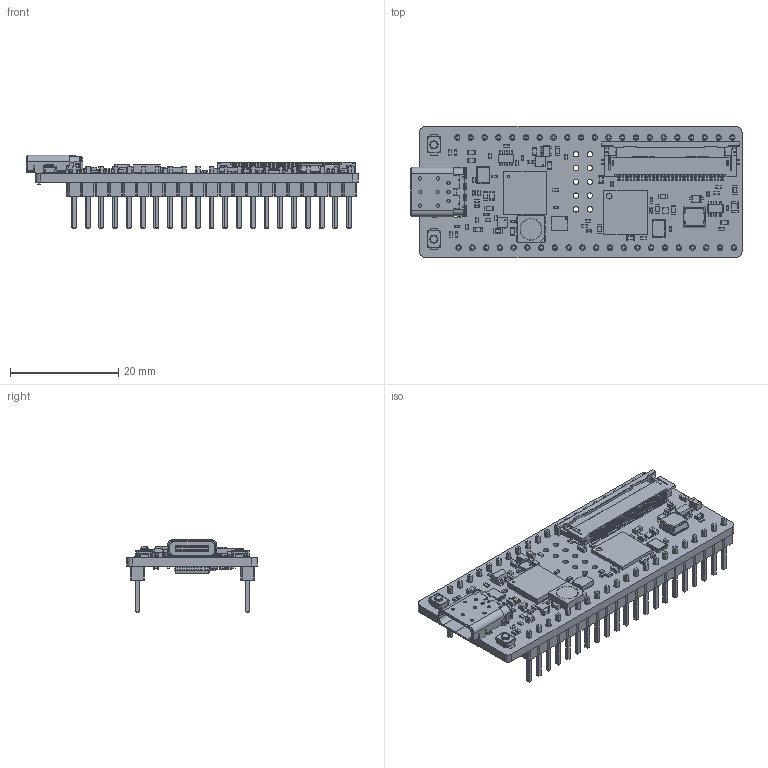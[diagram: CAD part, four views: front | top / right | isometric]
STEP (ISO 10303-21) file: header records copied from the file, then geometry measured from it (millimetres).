
FILE_DESCRIPTION(('KiCad electronic assembly'),'2;1');
FILE_NAME('ten_nano.step','2020-08-17T05:11:19',('An Author'),( 'A Company'),'Open CASCADE STEP processor 6.9', 'KiCad to STEP converter','Unknown');
FILE_SCHEMA(('AUTOMOTIVE_DESIGN { 1 0 10303 214 1 1 1 1 }'));
Length unit declared in the file: millimetre
Products named in the file (52): Open CASCADE STEP translator 6.9 1; 10M02SCM153C8G; COMPOUND; QFN-56-1EP_8x8mm_P0.5mm_EP4.6x5.3mm; SOLID; R_0603_1608Metric; LED_0603_1608Metric; L_0603_1608Metric; 54132-4062; C_0402_1005Metric; R_0402_1005Metric; LED_RGB_5050-6; SOT-23-6; C_0603_1608Metric; SSOP-20_4.4x6.5mm_P0.65mm; Crystal_SMD_3225-4Pin_3.2x2.5mm; L_Bourns-SRN4018; C_0805_2012Metric; PinHeader_1x21_P2.54mm_Vertical; 74LVC4066BQ,115; SOT-353_SC-70-5; AMS_QFN-4-1EP_2x2mm_P0.95mm; SW_SPST_B3U-1000P-B; 12401598E4#2A--3DModel-STEP-56544; Crystal_SMD_TXC_7M-4Pin_3.2x2.5mm; D_SOD-323F; DFN-6-1EP_1.2x1.2mm_P0.4mm_EP0.3x0.94mm_PullBack
Assembly tree (133 placements, depth 3):
  Open CASCADE STEP translator 6.9 1
    10M02SCM153C8G
      COMPOUND
    QFN-56-1EP_8x8mm_P0.5mm_EP4.6x5.3mm
      SOLID
    R_0603_1608Metric  x3
      SOLID
    LED_0603_1608Metric
      SOLID
    L_0603_1608Metric  x10
      SOLID
    54132-4062
      SOLID
      SOLID
      COMPOUND
    C_0402_1005Metric  x36
      SOLID
    R_0402_1005Metric  x24
      SOLID
    LED_RGB_5050-6
      SOLID
    SOT-23-6  x2
      SOLID
    C_0603_1608Metric  x9
      SOLID
    SSOP-20_4.4x6.5mm_P0.65mm
      SOLID
    Crystal_SMD_3225-4Pin_3.2x2.5mm
      SOLID
    L_Bourns-SRN4018
      COMPOUND
    C_0805_2012Metric
      SOLID
    PinHeader_1x21_P2.54mm_Vertical  x2
      SOLID
    74LVC4066BQ,115
      COMPOUND
    SOT-353_SC-70-5
      SOLID
    AMS_QFN-4-1EP_2x2mm_P0.95mm  x2
      SOLID
    SW_SPST_B3U-1000P-B  x2
      SOLID
    12401598E4#2A--3DModel-STEP-56544
      COMPOUND
    Crystal_SMD_TXC_7M-4Pin_3.2x2.5mm
      SOLID
    D_SOD-323F
      SOLID
    DFN-6-1EP_1.2x1.2mm_P0.4mm_EP0.3x0.94mm_PullBack  x2
      SOLID
    COMPOUND
Bounding box: 61.28 x 24.08 x 13.52 mm (x, y, z)
Volume: 3677.9 mm3; surface area: 8713.9 mm2
Topology: 332 solids, 332 shells, 8034 faces, 21823 edges, 14320 vertices
Faces by surface type: plane 5782, cylinder 1817, sphere 191, bspline 179, torus 57, cone 8
Full cylindrical faces by diameter (mm): 0.1 x2, 0.2 x2, 0.312 x1, 0.4 x1, 0.5 x1, 0.65 x4, 1 x53, 1.5 x2, 3.9 x1, 4 x1
Entity records: 354725 total; most frequent: CARTESIAN_POINT 65086, DIRECTION 50420, LINE 36088, VECTOR 36088, ORIENTED_EDGE 26572, PCURVE 26572, DEFINITIONAL_REPRESENTATION 26572, EDGE_CURVE 13286
